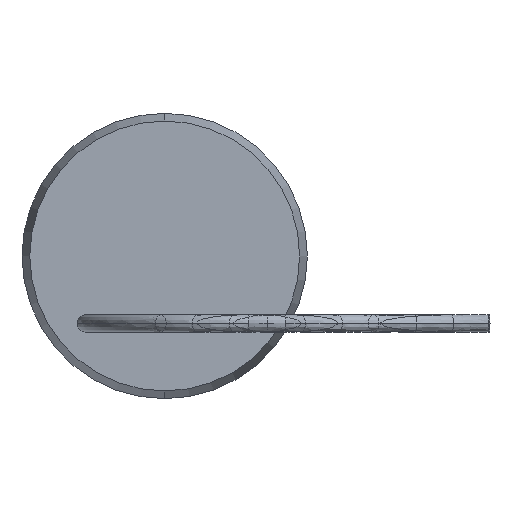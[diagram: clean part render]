
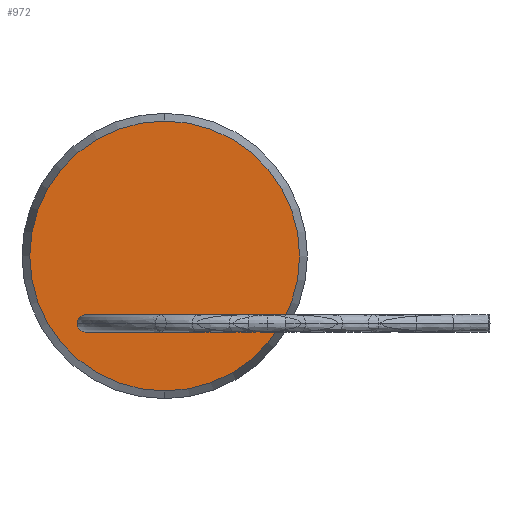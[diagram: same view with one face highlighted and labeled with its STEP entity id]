
A CAD part, left-side view. The second image highlights one B-rep face of the part: STEP entity #972.
In plain terms, the highlighted planar face has unit normal (-1, 0, 0).
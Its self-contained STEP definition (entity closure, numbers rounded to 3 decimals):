
#190 = EDGE_CURVE ( 'NONE', #5805, #5859, #2688, .T. ) ;
#274 = EDGE_CURVE ( 'NONE', #1050, #1032, #3076, .T. ) ;
#366 = EDGE_CURVE ( 'NONE', #3493, #3569, #3428, .T. ) ;
#885 = EDGE_LOOP ( 'NONE', ( #956, #1090 ) ) ;
#933 = ORIENTED_EDGE ( 'NONE', *, *, #5802, .F. ) ;
#956 = ORIENTED_EDGE ( 'NONE', *, *, #1011, .T. ) ;
#972 = ADVANCED_FACE ( 'NONE', ( #6782, #6783, #6784, #6785 ), #6786, .F. ) ;
#1004 = EDGE_CURVE ( 'NONE', #1032, #1050, #6917, .T. ) ;
#1011 = EDGE_CURVE ( 'NONE', #5859, #5805, #6928, .T. ) ;
#1020 = EDGE_CURVE ( 'NONE', #1043, #1064, #6999, .T. ) ;
#1025 = EDGE_LOOP ( 'NONE', ( #1097, #1175 ) ) ;
#1032 = VERTEX_POINT ( 'NONE', #7047 ) ;
#1043 = VERTEX_POINT ( 'NONE', #7174 ) ;
#1050 = VERTEX_POINT ( 'NONE', #7228 ) ;
#1064 = VERTEX_POINT ( 'NONE', #7285 ) ;
#1090 = ORIENTED_EDGE ( 'NONE', *, *, #190, .T. ) ;
#1097 = ORIENTED_EDGE ( 'NONE', *, *, #1020, .F. ) ;
#1127 = EDGE_LOOP ( 'NONE', ( #1218, #933 ) ) ;
#1175 = ORIENTED_EDGE ( 'NONE', *, *, #1906, .F. ) ;
#1208 = EDGE_LOOP ( 'NONE', ( #1271, #1315 ) ) ;
#1218 = ORIENTED_EDGE ( 'NONE', *, *, #366, .F. ) ;
#1271 = ORIENTED_EDGE ( 'NONE', *, *, #1004, .F. ) ;
#1315 = ORIENTED_EDGE ( 'NONE', *, *, #274, .F. ) ;
#1906 = EDGE_CURVE ( 'NONE', #1064, #1043, #2510, .T. ) ;
#2510 = CIRCLE ( 'NONE', #2511, 0.6 ) ;
#2511 = AXIS2_PLACEMENT_3D ( 'NONE', #2512, #2513, #2514 ) ;
#2512 = CARTESIAN_POINT ( 'NONE',  ( 0., 2.54, -4.65 ) ) ;
#2513 = DIRECTION ( 'NONE',  ( -1., 0., 0. ) ) ;
#2514 = DIRECTION ( 'NONE',  ( 0., 0., 1. ) ) ;
#2688 = CIRCLE ( 'NONE', #2689, 0.6 ) ;
#2689 = AXIS2_PLACEMENT_3D ( 'NONE', #2692, #2693, #2694 ) ;
#2692 = CARTESIAN_POINT ( 'NONE',  ( 0., -2.54, -4.65 ) ) ;
#2693 = DIRECTION ( 'NONE',  ( 1., 0., 0. ) ) ;
#2694 = DIRECTION ( 'NONE',  ( 0., 0., 1. ) ) ;
#3076 = CIRCLE ( 'NONE', #3077, 0.6 ) ;
#3077 = AXIS2_PLACEMENT_3D ( 'NONE', #3078, #3079, #3080 ) ;
#3078 = CARTESIAN_POINT ( 'NONE',  ( 0., 0., -4.65 ) ) ;
#3079 = DIRECTION ( 'NONE',  ( -1., 0., 0. ) ) ;
#3080 = DIRECTION ( 'NONE',  ( 0., 0., 1. ) ) ;
#3352 = CARTESIAN_POINT ( 'NONE',  ( 0., 0., -9.314 ) ) ;
#3382 = CARTESIAN_POINT ( 'NONE',  ( 0., 0., 9.314 ) ) ;
#3428 = CIRCLE ( 'NONE', #3429, 9.314 ) ;
#3429 = AXIS2_PLACEMENT_3D ( 'NONE', #3430, #3431, #3432 ) ;
#3430 = CARTESIAN_POINT ( 'NONE',  ( 0., 0., 0. ) ) ;
#3431 = DIRECTION ( 'NONE',  ( 1., 0., 0. ) ) ;
#3432 = DIRECTION ( 'NONE',  ( 0., 0., -1. ) ) ;
#3493 = VERTEX_POINT ( 'NONE', #3352 ) ;
#3569 = VERTEX_POINT ( 'NONE', #3382 ) ;
#5281 = CIRCLE ( 'NONE', #5282, 9.314 ) ;
#5282 = AXIS2_PLACEMENT_3D ( 'NONE', #5283, #5284, #5285 ) ;
#5283 = CARTESIAN_POINT ( 'NONE',  ( 0., 0., 0. ) ) ;
#5284 = DIRECTION ( 'NONE',  ( 1., 0., 0. ) ) ;
#5285 = DIRECTION ( 'NONE',  ( 0., 0., -1. ) ) ;
#5293 = CARTESIAN_POINT ( 'NONE',  ( 0., -2.54, -5.25 ) ) ;
#5335 = CARTESIAN_POINT ( 'NONE',  ( 0., -2.54, -4.05 ) ) ;
#5802 = EDGE_CURVE ( 'NONE', #3569, #3493, #5281, .T. ) ;
#5805 = VERTEX_POINT ( 'NONE', #5293 ) ;
#5859 = VERTEX_POINT ( 'NONE', #5335 ) ;
#6782 = FACE_BOUND ( 'NONE', #1025, .T. ) ;
#6783 = FACE_BOUND ( 'NONE', #1208, .T. ) ;
#6784 = FACE_BOUND ( 'NONE', #885, .T. ) ;
#6785 = FACE_OUTER_BOUND ( 'NONE', #1127, .T. ) ;
#6786 = PLANE ( 'NONE',  #6787 ) ;
#6787 = AXIS2_PLACEMENT_3D ( 'NONE', #6788, #6789, #6790 ) ;
#6788 = CARTESIAN_POINT ( 'NONE',  ( 0., 9.687, 9.687 ) ) ;
#6789 = DIRECTION ( 'NONE',  ( 1., 0., 0. ) ) ;
#6790 = DIRECTION ( 'NONE',  ( 0., -1., 0. ) ) ;
#6917 = CIRCLE ( 'NONE', #6918, 0.6 ) ;
#6918 = AXIS2_PLACEMENT_3D ( 'NONE', #6919, #6920, #6921 ) ;
#6919 = CARTESIAN_POINT ( 'NONE',  ( 0., 0., -4.65 ) ) ;
#6920 = DIRECTION ( 'NONE',  ( -1., 0., 0. ) ) ;
#6921 = DIRECTION ( 'NONE',  ( 0., 0., 1. ) ) ;
#6928 = CIRCLE ( 'NONE', #6929, 0.6 ) ;
#6929 = AXIS2_PLACEMENT_3D ( 'NONE', #6930, #6931, #6932 ) ;
#6930 = CARTESIAN_POINT ( 'NONE',  ( 0., -2.54, -4.65 ) ) ;
#6931 = DIRECTION ( 'NONE',  ( 1., 0., 0. ) ) ;
#6932 = DIRECTION ( 'NONE',  ( 0., 0., 1. ) ) ;
#6999 = CIRCLE ( 'NONE', #7000, 0.6 ) ;
#7000 = AXIS2_PLACEMENT_3D ( 'NONE', #7001, #7002, #7003 ) ;
#7001 = CARTESIAN_POINT ( 'NONE',  ( 0., 2.54, -4.65 ) ) ;
#7002 = DIRECTION ( 'NONE',  ( -1., 0., 0. ) ) ;
#7003 = DIRECTION ( 'NONE',  ( 0., 0., 1. ) ) ;
#7047 = CARTESIAN_POINT ( 'NONE',  ( 0., 0., -4.05 ) ) ;
#7174 = CARTESIAN_POINT ( 'NONE',  ( 0., 2.54, -4.05 ) ) ;
#7228 = CARTESIAN_POINT ( 'NONE',  ( 0., 0., -5.25 ) ) ;
#7285 = CARTESIAN_POINT ( 'NONE',  ( 0., 2.54, -5.25 ) ) ;
